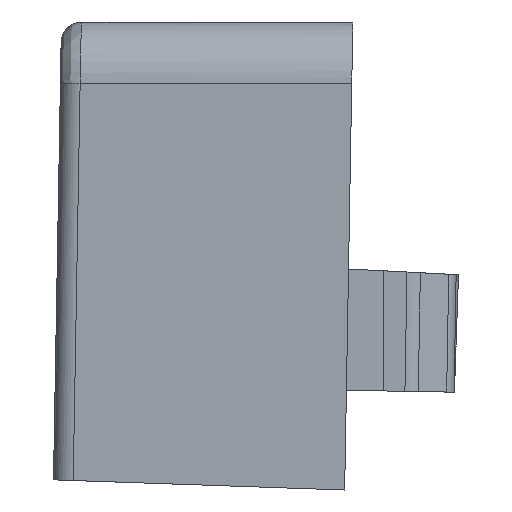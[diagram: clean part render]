
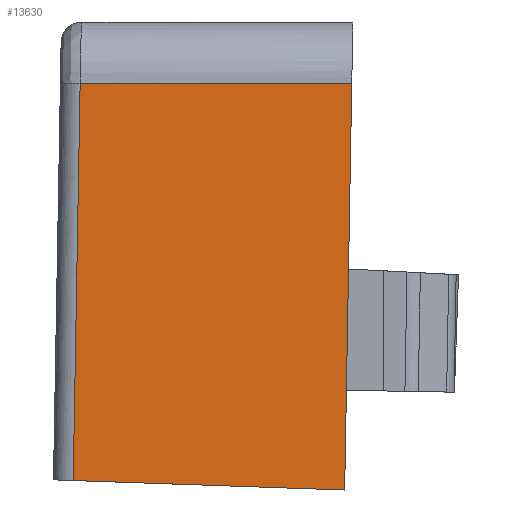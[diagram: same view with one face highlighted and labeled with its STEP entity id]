
A CAD part, front view. The second image highlights one B-rep face of the part: STEP entity #13630.
In plain terms, the highlighted planar face has unit normal (-0.052, -0.999, 0.019) as drawn and (0.052, 0.998, 0.018) by its records, which use the part's own axes.
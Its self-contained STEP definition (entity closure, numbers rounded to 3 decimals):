
#130=CARTESIAN_POINT('',(430.588,30.822,
1.783));
#140=VERTEX_POINT('',#130);
#960=CARTESIAN_POINT('',(430.588,31.002,
-7.993));
#970=VERTEX_POINT('',#960);
#1000=CARTESIAN_POINT('',(430.588,30.886,-1.7));
#1010=DIRECTION('',(0.,0.018,-1.));
#1020=VECTOR('',#1010,1.);
#1030=LINE('',#1000,#1020);
#1040=EDGE_CURVE('',#140,#970,#1030,.T.);
#7840=CARTESIAN_POINT('',(437.114,30.483,
1.669));
#7850=VERTEX_POINT('',#7840);
#7880=CARTESIAN_POINT('',(437.114,30.544,
-1.691));
#7890=DIRECTION('',(0.,-0.018,1.));
#7900=VECTOR('',#7890,1.);
#7910=LINE('',#7880,#7900);
#7920=CARTESIAN_POINT('',(437.114,30.658,
-7.879));
#7930=VERTEX_POINT('',#7920);
#7940=EDGE_CURVE('',#7930,#7850,#7910,.T.);
#11930=CARTESIAN_POINT('',(433.,30.875,
-7.951));
#11940=DIRECTION('',(-0.998,0.053,
-0.017));
#11950=VECTOR('',#11940,1.);
#11960=LINE('',#11930,#11950);
#11970=EDGE_CURVE('',#7930,#970,#11960,.T.);
#13470=CARTESIAN_POINT('',(433.,30.875,
-7.951));
#13480=DIRECTION('',(0.052,0.998,
0.018));
#13490=DIRECTION('',(-0.999,0.052,
0.));
#13500=AXIS2_PLACEMENT_3D('',#13470,#13480,#13490);
#13510=PLANE('',#13500);
#13520=ORIENTED_EDGE('',*,*,#1040,.F.);
#13530=ORIENTED_EDGE('',*,*,#11970,.T.);
#13540=ORIENTED_EDGE('',*,*,#7940,.F.);
#13550=CARTESIAN_POINT('',(433.078,30.693,
1.74));
#13560=DIRECTION('',(0.998,-0.052,
-0.017));
#13570=VECTOR('',#13560,1.);
#13580=LINE('',#13550,#13570);
#13590=EDGE_CURVE('',#140,#7850,#13580,.T.);
#13600=ORIENTED_EDGE('',*,*,#13590,.T.);
#13610=EDGE_LOOP('',(#13600,#13540,#13530,#13520));
#13620=FACE_OUTER_BOUND('',#13610,.T.);
#13630=ADVANCED_FACE('',(#13620),#13510,.T.);
